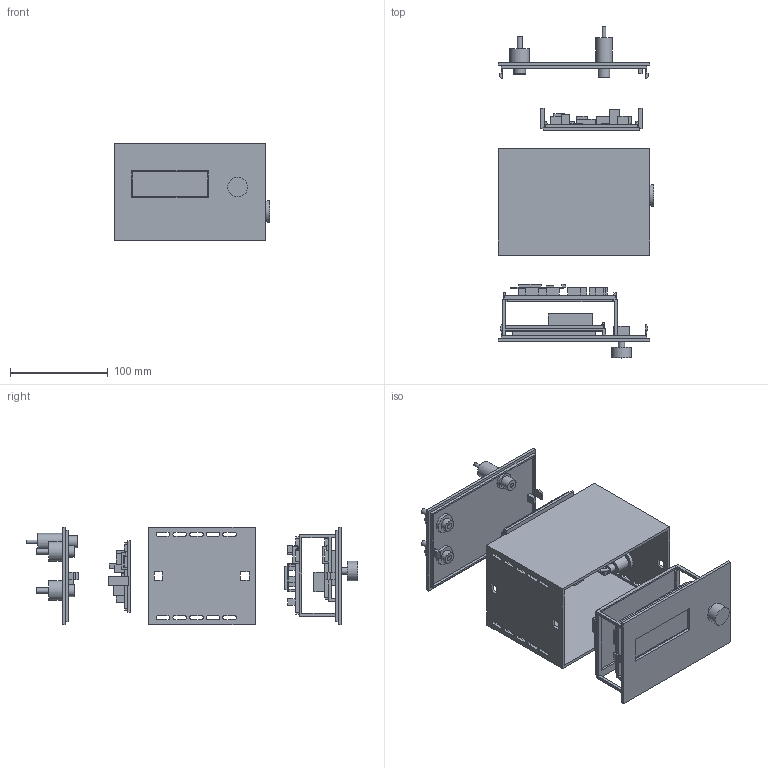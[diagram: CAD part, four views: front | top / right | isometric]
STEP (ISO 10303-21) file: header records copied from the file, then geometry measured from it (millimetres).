
FILE_DESCRIPTION(('Open CASCADE Model'),'2;1');
FILE_NAME('Open CASCADE Shape Model','2026-11-05T16:43:00',('Author'),( 'Open CASCADE'),'Open CASCADE STEP processor 7.8','Open CASCADE 7.8' ,'Unknown');
FILE_SCHEMA(('AUTOMOTIVE_DESIGN { 1 0 10303 214 1 1 1 1 }'));
Length unit declared in the file: millimetre
Products named in the file (97): Exploded_fit_study_07_integrated_buck; 01_Shell_open_front_and_rear; 02_Removable_front_LCD_A; 03_B_removable_carrier; 04_Rear_panel_with_latches; PCB_A; A_C1_ENVELOPE; A_C2_ENVELOPE; A_C3_ENVELOPE; A_D1_ENVELOPE; A_D2_ENVELOPE; A_J1_ENVELOPE; A_J2_ENVELOPE; A_J3_ENVELOPE; A_J4_ENVELOPE; A_J5_ENVELOPE; A_J6_ENVELOPE; A_J7_ENVELOPE; A_JP1_ENVELOPE; A_R1_ENVELOPE; A_R2_ENVELOPE; A_R3_ENVELOPE; A_R4_ENVELOPE; A_R5_ENVELOPE; A_R6_ENVELOPE; A_R7_ENVELOPE; A_U2_ENVELOPE; PCB_B; B_R3_ENVELOPE; B_C3_ENVELOPE; B_L1_ENVELOPE; B_J4_ENVELOPE; B_D9_ENVELOPE; B_R12_ENVELOPE; B_U5_ENVELOPE; B_C5_ENVELOPE; B_R5_ENVELOPE; B_R11_ENVELOPE; B_C2_ENVELOPE; B_C8_ENVELOPE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
Assembly tree (96 placements, depth 2):
  Exploded_fit_study_07_integrated_buck
    01_Shell_open_front_and_rear
    02_Removable_front_LCD_A
    03_B_removable_carrier
    04_Rear_panel_with_latches
    PCB_A
    A_C1_ENVELOPE
    A_C2_ENVELOPE
    A_C3_ENVELOPE
    A_D1_ENVELOPE
    A_D2_ENVELOPE
    A_J1_ENVELOPE
    A_J2_ENVELOPE
    A_J3_ENVELOPE
    A_J4_ENVELOPE
    A_J5_ENVELOPE
    A_J6_ENVELOPE
    A_J7_ENVELOPE
    A_JP1_ENVELOPE
    A_R1_ENVELOPE
    A_R2_ENVELOPE
    A_R3_ENVELOPE
    A_R4_ENVELOPE
    A_R5_ENVELOPE
    A_R6_ENVELOPE
    A_R7_ENVELOPE
    A_U2_ENVELOPE
    PCB_B
    B_R3_ENVELOPE
    B_C3_ENVELOPE
    B_L1_ENVELOPE
    B_J4_ENVELOPE
    B_D9_ENVELOPE
    B_R12_ENVELOPE
    B_U5_ENVELOPE
    B_C5_ENVELOPE
    B_R5_ENVELOPE
    B_R11_ENVELOPE
    B_C2_ENVELOPE
    B_C8_ENVELOPE
    B_D4_ENVELOPE
    B_C6_ENVELOPE
    B_R13_ENVELOPE
    B_Q2_ENVELOPE
    B_F1_ENVELOPE
    B_C4_ENVELOPE
    B_D3_ENVELOPE
    B_J3_ENVELOPE
    B_R4_ENVELOPE
    B_Q1_ENVELOPE
    B_C7_ENVELOPE
    B_R2_ENVELOPE
    B_R1_ENVELOPE
    B_U3_ENVELOPE
    B_C10_ENVELOPE
    B_J6_ENVELOPE
    B_U2_ENVELOPE
    B_R7_ENVELOPE
    B_J2_ENVELOPE
    B_J7_ENVELOPE
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Bounding box: 159 x 339 x 100 mm (x, y, z)
Volume: 418380.1 mm3; surface area: 313489.6 mm2
Topology: 96 solids, 96 shells, 1010 faces, 2387 edges, 1588 vertices
Faces by surface type: plane 937, cylinder 73
Full cylindrical faces by diameter (mm): 3 x3, 3.5 x1, 4.3 x1, 5.5 x2, 6.3 x2, 6.4 x1, 7.2 x1, 8 x1, 12 x6, 12.4 x1, 12.5 x2, 15 x2, 16 x1, 17 x2, 20 x5, 22 x2
Entity records: 62139 total; most frequent: CARTESIAN_POINT 9910, DIRECTION 9519, LINE 6853, VECTOR 6853, ORIENTED_EDGE 4774, PCURVE 4774, DEFINITIONAL_REPRESENTATION 4774, EDGE_CURVE 2387
